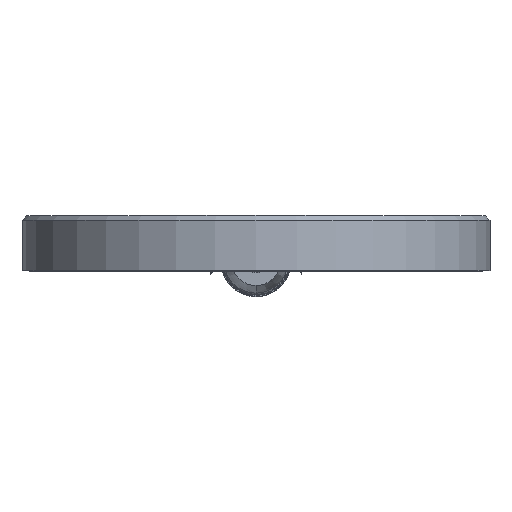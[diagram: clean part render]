
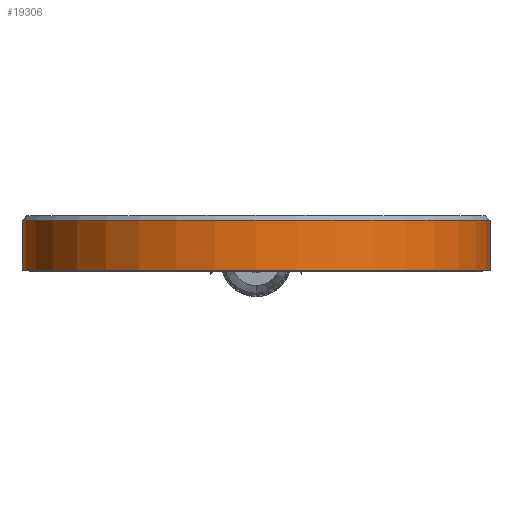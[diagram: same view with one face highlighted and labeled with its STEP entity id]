
A CAD part, top view. The second image highlights one B-rep face of the part: STEP entity #19306.
In plain terms, the highlighted cylindrical face has radius 51 mm (diameter 102 mm), a partial arc.
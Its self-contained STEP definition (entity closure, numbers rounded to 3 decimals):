
#223 = CARTESIAN_POINT ( 'NONE',  ( 0., 12.01, 0. ) ) ;
#398 = CARTESIAN_POINT ( 'NONE',  ( 0., 0.01, 0. ) ) ;
#1326 = CARTESIAN_POINT ( 'NONE',  ( 0., 11.01, 0. ) ) ;
#2109 = DIRECTION ( 'NONE',  ( 0., 1., 0. ) ) ;
#3804 = DIRECTION ( 'NONE',  ( -1., 0., 0. ) ) ;
#4813 = AXIS2_PLACEMENT_3D ( 'NONE', #223, #2109, #23569 ) ;
#5204 = CYLINDRICAL_SURFACE ( 'NONE', #4813, 51. ) ;
#5242 = CARTESIAN_POINT ( 'NONE',  ( -51., 11.01, 0. ) ) ;
#8291 = AXIS2_PLACEMENT_3D ( 'NONE', #1326, #25093, #3804 ) ;
#8768 = AXIS2_PLACEMENT_3D ( 'NONE', #398, #24348, #29022 ) ;
#9614 = VERTEX_POINT ( 'NONE', #25918 ) ;
#10126 = EDGE_CURVE ( 'NONE', #23124, #19558, #29604, .T. ) ;
#10135 = ORIENTED_EDGE ( 'NONE', *, *, #10126, .T. ) ;
#10351 = VECTOR ( 'NONE', #24151, 1000. ) ;
#11727 = LINE ( 'NONE', #18895, #16225 ) ;
#15540 = ORIENTED_EDGE ( 'NONE', *, *, #27891, .T. ) ;
#16225 = VECTOR ( 'NONE', #28416, 1000. ) ;
#17214 = CARTESIAN_POINT ( 'NONE',  ( 51., 11.01, 0. ) ) ;
#18895 = CARTESIAN_POINT ( 'NONE',  ( -51., 12.01, 0. ) ) ;
#19306 = ADVANCED_FACE ( 'NONE', ( #26501 ), #5204, .T. ) ;
#19558 = VERTEX_POINT ( 'NONE', #17214 ) ;
#20051 = CARTESIAN_POINT ( 'NONE',  ( 51., 0.01, 0. ) ) ;
#20230 = CIRCLE ( 'NONE', #8291, 51. ) ;
#20654 = ORIENTED_EDGE ( 'NONE', *, *, #21164, .T. ) ;
#20670 = EDGE_LOOP ( 'NONE', ( #21941, #20654, #10135, #15540 ) ) ;
#21003 = EDGE_CURVE ( 'NONE', #9614, #24168, #11727, .T. ) ;
#21164 = EDGE_CURVE ( 'NONE', #9614, #23124, #23730, .T. ) ;
#21941 = ORIENTED_EDGE ( 'NONE', *, *, #21003, .F. ) ;
#23124 = VERTEX_POINT ( 'NONE', #20051 ) ;
#23569 = DIRECTION ( 'NONE',  ( 1., 0., 0. ) ) ;
#23730 = CIRCLE ( 'NONE', #8768, 51. ) ;
#24151 = DIRECTION ( 'NONE',  ( 0., 1., 0. ) ) ;
#24168 = VERTEX_POINT ( 'NONE', #5242 ) ;
#24348 = DIRECTION ( 'NONE',  ( 0., 1., 0. ) ) ;
#25093 = DIRECTION ( 'NONE',  ( 0., -1., 0. ) ) ;
#25918 = CARTESIAN_POINT ( 'NONE',  ( -51., 0.01, 0. ) ) ;
#26501 = FACE_OUTER_BOUND ( 'NONE', #20670, .T. ) ;
#26637 = CARTESIAN_POINT ( 'NONE',  ( 51., 12.01, 0. ) ) ;
#27891 = EDGE_CURVE ( 'NONE', #19558, #24168, #20230, .T. ) ;
#28416 = DIRECTION ( 'NONE',  ( 0., 1., 0. ) ) ;
#29022 = DIRECTION ( 'NONE',  ( 1., 0., 0. ) ) ;
#29604 = LINE ( 'NONE', #26637, #10351 ) ;
